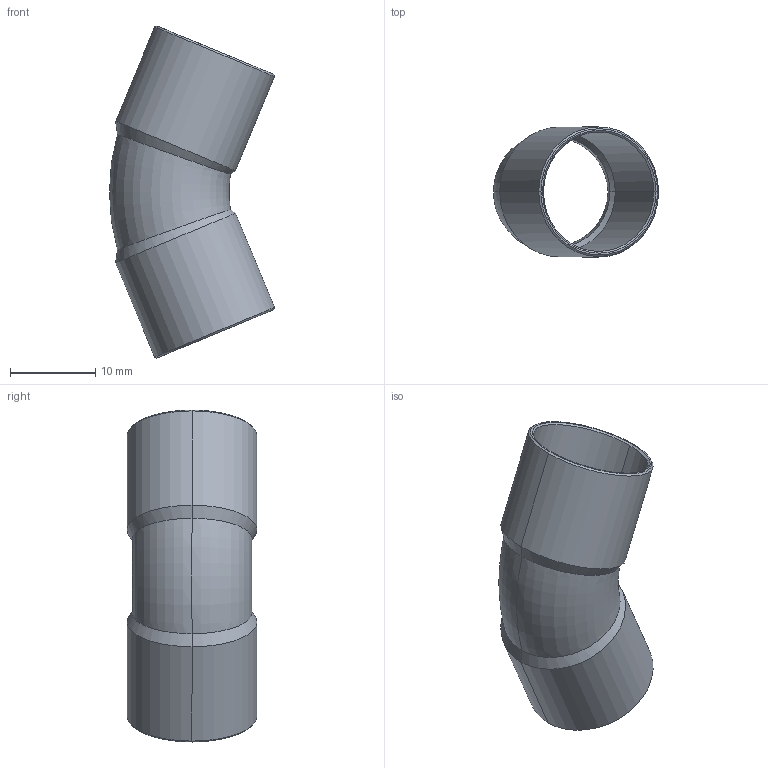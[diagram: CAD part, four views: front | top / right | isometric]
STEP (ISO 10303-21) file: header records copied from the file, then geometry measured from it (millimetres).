
FILE_DESCRIPTION((''),'2;1');
FILE_NAME('P:\Bouwmaten\z-maattekeningen 3D\5000\5040\1504114.stp','2005-10-12T14:27:12',('Kris'),(''),'Autodesk Inventor 8','Autodesk Inventor 8','');
FILE_SCHEMA(('AUTOMOTIVE_DESIGN { 1 0 10303 214 1 1 1 1 }'));
Length unit declared in the file: millimetre
Products named in the file (1): 1504114
Bounding box: 19.35 x 15.2 x 38.92 mm (x, y, z)
Volume: 951 mm3; surface area: 3215.7 mm2
Topology: 1 solids, 1 shells, 30 faces, 60 edges, 32 vertices
Faces by surface type: cone 12, bspline 9, torus 4, cylinder 4, plane 1
Entity records: 1027 total; most frequent: CARTESIAN_POINT 414, DIRECTION 124, ORIENTED_EDGE 120, EDGE_CURVE 60, AXIS2_PLACEMENT_3D 50, VERTEX_POINT 32, EDGE_LOOP 32, FACE_OUTER_BOUND 30
